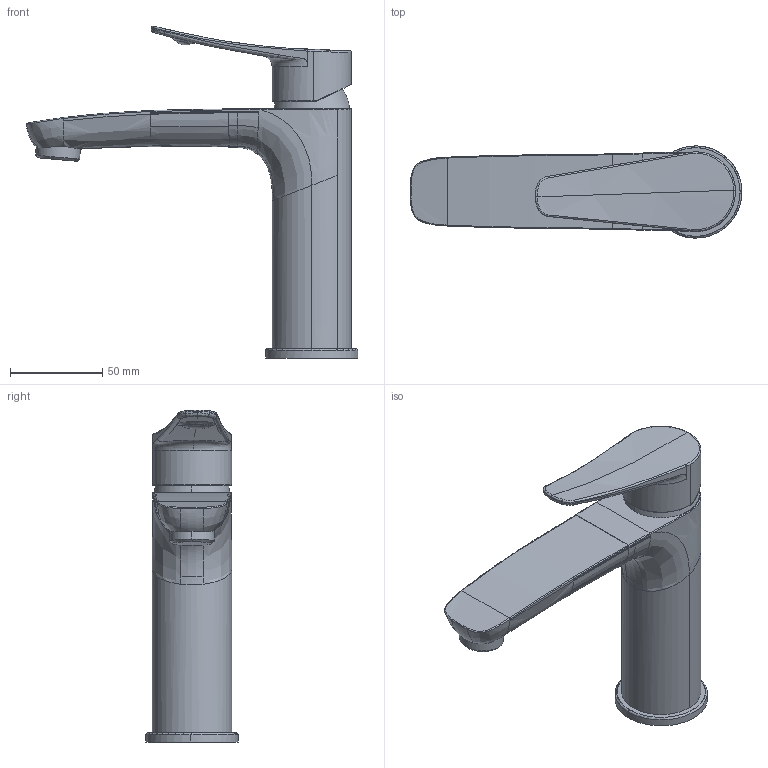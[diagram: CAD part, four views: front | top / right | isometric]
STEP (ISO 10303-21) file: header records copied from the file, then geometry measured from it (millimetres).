
FILE_DESCRIPTION((''),'2;1');
FILE_NAME('12_401_052_XXX','2018-02-21T',('ES997'),(''),'CREO PARAMETRIC BY PTC INC, 2016260','CREO PARAMETRIC BY PTC INC, 2016260','');
FILE_SCHEMA(('CONFIG_CONTROL_DESIGN'));
Length unit declared in the file: millimetre
Products named in the file (1): 12_401_052_XXX
Bounding box: 179.8 x 49.99 x 179.87 mm (x, y, z)
Volume: 344696.5 mm3; surface area: 44921.8 mm2
Topology: 1 solids, 1 shells, 164 faces, 451 edges, 287 vertices
Faces by surface type: bspline 106, cylinder 20, plane 19, torus 8, extrusion 5, sphere 4, cone 2
Entity records: 59453 total; most frequent: CARTESIAN_POINT 56248, ORIENTED_EDGE 894, EDGE_CURVE 447, B_SPLINE_CURVE_WITH_KNOTS 345, VERTEX_POINT 287, DIRECTION 275, EDGE_LOOP 166, FACE_OUTER_BOUND 164
